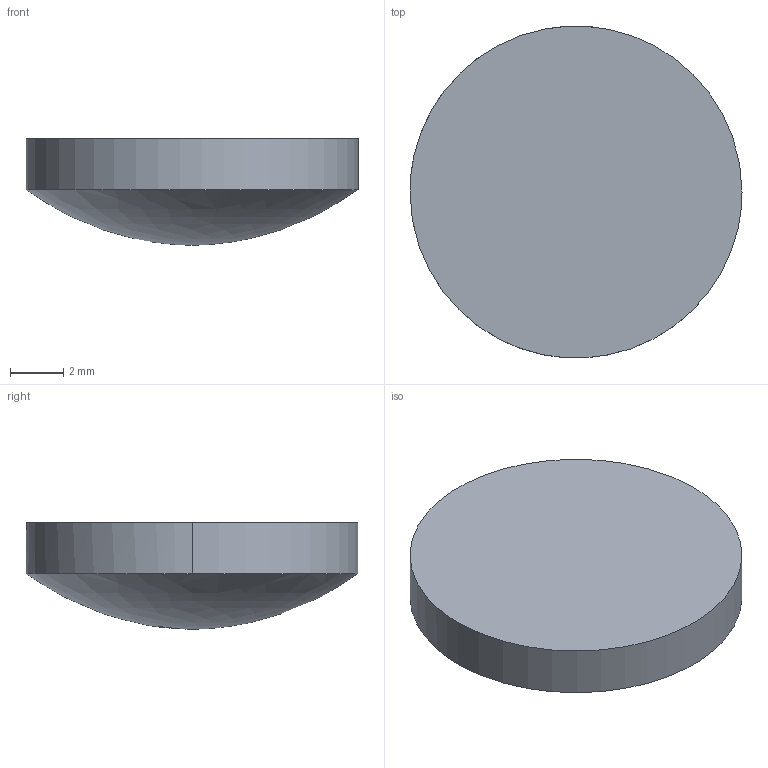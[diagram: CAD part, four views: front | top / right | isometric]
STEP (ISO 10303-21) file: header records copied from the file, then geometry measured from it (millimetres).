
FILE_DESCRIPTION ((), '1');
FILE_NAME ('\\fileserver\Daten\Applikationen\Optikdesign\SPA-Design\aktuelle SPA-Designs\Linsenkataloge - 2016-Juni\Zemax\AFL\AFL12-20.STP', '2016-05-24T14:14:32', ('Unknown'), ('Unknown'), 'HarmonyWare STEP v2.0.1', 'HarmonyWare Translators', '');
FILE_SCHEMA (('CONFIG_CONTROL_DESIGN'));
Length unit declared in the file: millimetre
Products named in the file (1): NONE
Bounding box: 12.5 x 12.49 x 4 mm (x, y, z)
Volume: 365.8 mm3; surface area: 334.2 mm2
Topology: 1 solids, 1 shells, 4 faces, 9 edges, 6 vertices
Faces by surface type: cylinder 2, bspline 1, plane 1
Entity records: 275 total; most frequent: CARTESIAN_POINT 124, ORIENTED_EDGE 16, EDGE_CURVE 8, PERSON 8, ORGANIZATION 8, PERSON_AND_ORGANIZATION 8, VERTEX_POINT 6, DIRECTION 6
